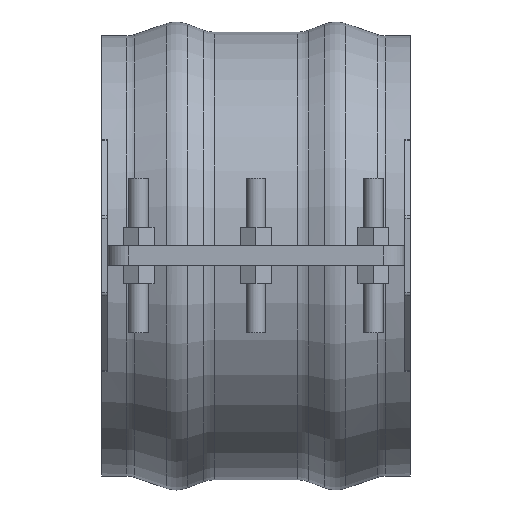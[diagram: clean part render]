
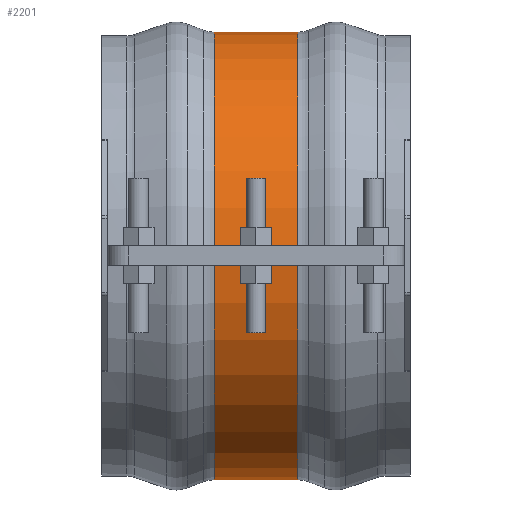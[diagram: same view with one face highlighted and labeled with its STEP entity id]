
A CAD part, top view. The second image highlights one B-rep face of the part: STEP entity #2201.
In plain terms, the highlighted cylindrical face has radius 184.068 mm (diameter 368.136 mm), a partial arc.
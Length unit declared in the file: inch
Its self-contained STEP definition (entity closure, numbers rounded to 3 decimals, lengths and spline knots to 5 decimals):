
#257=FACE_OUTER_BOUND('',#382,.T.);
#382=EDGE_LOOP('',(#1818,#1819,#1820,#1821));
#574=LINE('',#3580,#753);
#577=LINE('',#3657,#756);
#753=VECTOR('',#2893,0.3937);
#756=VECTOR('',#2904,0.3937);
#816=CIRCLE('',#2384,7.24677);
#817=CIRCLE('',#2386,7.24677);
#1017=VERTEX_POINT('',#3572);
#1018=VERTEX_POINT('',#3579);
#1029=VERTEX_POINT('',#3649);
#1030=VERTEX_POINT('',#3656);
#1290=EDGE_CURVE('',#1018,#1017,#574,.T.);
#1305=EDGE_CURVE('',#1030,#1029,#577,.T.);
#1316=EDGE_CURVE('',#1018,#1029,#816,.T.);
#1317=EDGE_CURVE('',#1017,#1030,#817,.T.);
#1818=ORIENTED_EDGE('',*,*,#1290,.T.);
#1819=ORIENTED_EDGE('',*,*,#1317,.T.);
#1820=ORIENTED_EDGE('',*,*,#1305,.T.);
#1821=ORIENTED_EDGE('',*,*,#1316,.F.);
#1994=CYLINDRICAL_SURFACE('',#2385,7.24677);
#2201=ADVANCED_FACE('',(#257),#1994,.T.);
#2384=AXIS2_PLACEMENT_3D('',#3701,#2925,#2926);
#2385=AXIS2_PLACEMENT_3D('',#3702,#2927,#2928);
#2386=AXIS2_PLACEMENT_3D('',#3703,#2929,#2930);
#2893=DIRECTION('',(-1.,0.,0.));
#2904=DIRECTION('',(1.,0.,0.));
#2925=DIRECTION('center_axis',(1.,0.,0.));
#2926=DIRECTION('ref_axis',(0.,0.,-1.));
#2927=DIRECTION('center_axis',(1.,0.,0.));
#2928=DIRECTION('ref_axis',(0.,0.,
-1.));
#2929=DIRECTION('center_axis',(1.,0.,0.));
#2930=DIRECTION('ref_axis',(0.,0.,-1.));
#3572=CARTESIAN_POINT('',(-1.35516,-0.3125,7.24003));
#3579=CARTESIAN_POINT('',(1.35516,-0.3125,7.24003));
#3580=CARTESIAN_POINT('',(0.,-0.3125,7.24003));
#3649=CARTESIAN_POINT('',(1.35516,0.3125,7.24003));
#3656=CARTESIAN_POINT('',(-1.35516,0.3125,7.24003));
#3657=CARTESIAN_POINT('',(0.,0.3125,7.24003));
#3701=CARTESIAN_POINT('Origin',(1.35516,0.,0.));
#3702=CARTESIAN_POINT('Origin',(0.,0.,0.));
#3703=CARTESIAN_POINT('Origin',(-1.35516,0.,
0.));
